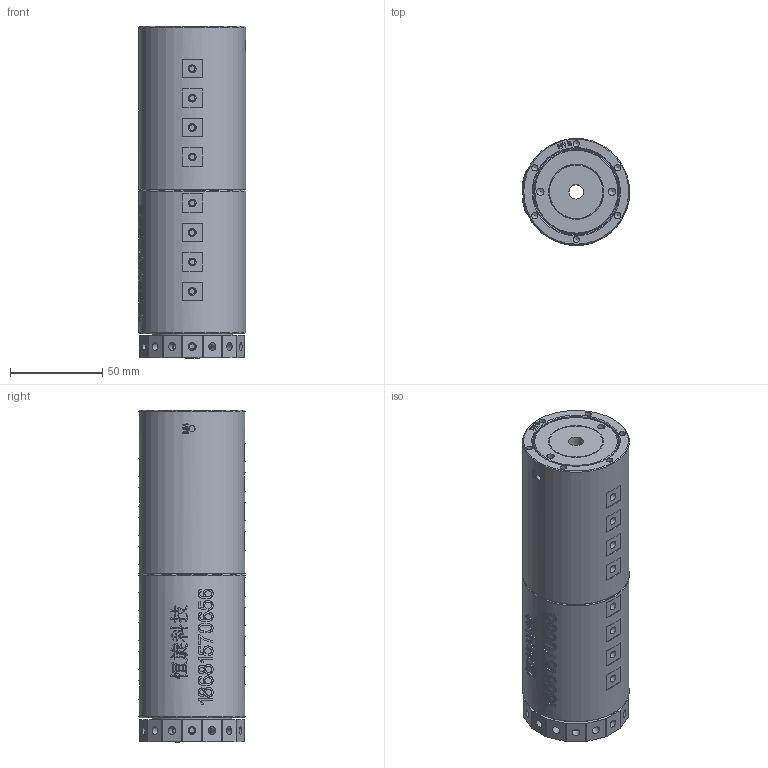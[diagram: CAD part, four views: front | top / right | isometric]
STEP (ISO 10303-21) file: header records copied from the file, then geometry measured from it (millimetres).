
FILE_DESCRIPTION(/* description */ (''),/* implementation_level */ '2;1');
FILE_NAME(/* name */ 'HQ16005-3D模型.stp',/* time_stamp */ '2025-09-05T17:53:00+08:00',/* author */ (''),/* organization */ (''),/* preprocessor_version */ 'ST-DEVELOPER v16.7',/* originating_system */ 'SIEMENS PLM Software NX 12.0',/* authorisation */ '');
FILE_SCHEMA (('AUTOMOTIVE_DESIGN { 1 0 10303 214 3 1 1 1 }'));
Length unit declared in the file: millimetre
Products named in the file (1): AdmiE6DC186D3sai
Bounding box: 58.56 x 58 x 180.4 mm (x, y, z)
Volume: 456428.5 mm3; surface area: 54624.5 mm2
Topology: 1 solids, 1 shells, 1309 faces, 3332 edges, 2237 vertices
Faces by surface type: plane 559, extrusion 457, cylinder 209, bspline 48, cone 36
Full cylindrical faces by diameter (mm): 3 x48, 3.3 x2, 3.4 x6, 4 x2, 4.1 x32, 4.2 x68, 8 x1, 44 x1, 46 x1, 47 x1, 58 x2
Entity records: 46494 total; most frequent: CARTESIAN_POINT 19758, ORIENTED_EDGE 6006, DIRECTION 3668, EDGE_CURVE 3003, B_SPLINE_CURVE_WITH_KNOTS 2393, VERTEX_POINT 2126, EDGE_LOOP 1729, AXIS2_PLACEMENT_3D 1338
